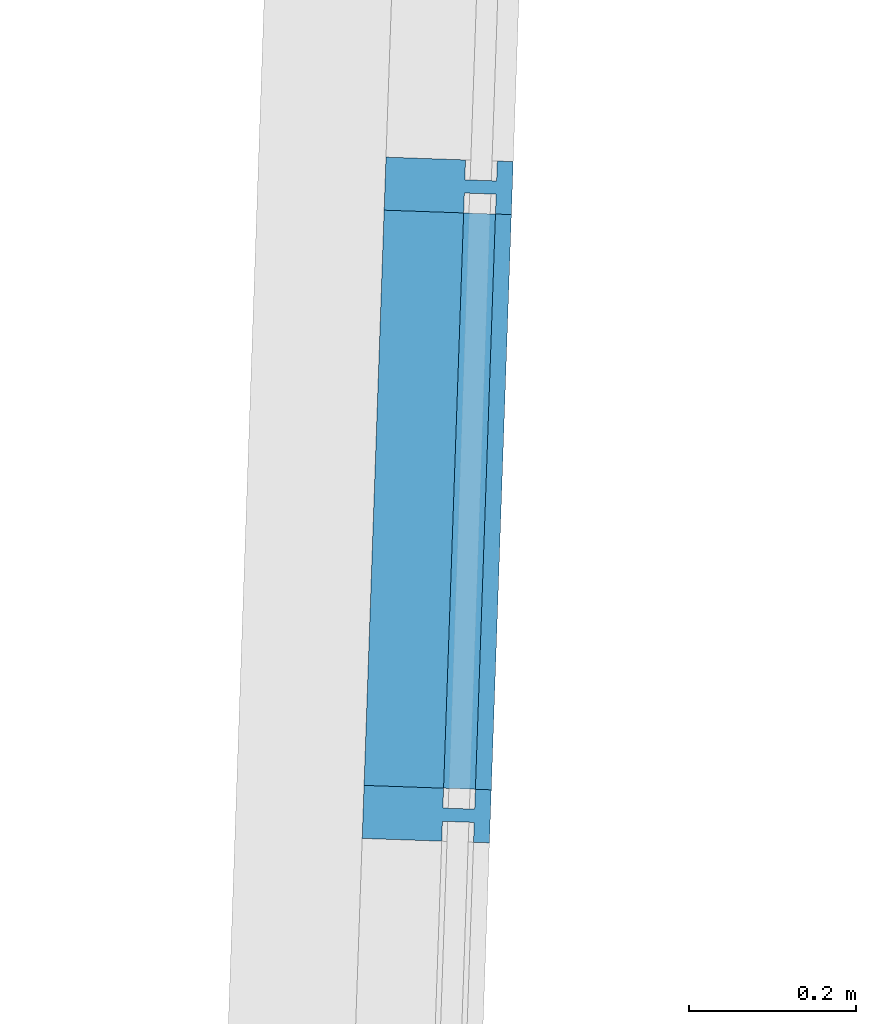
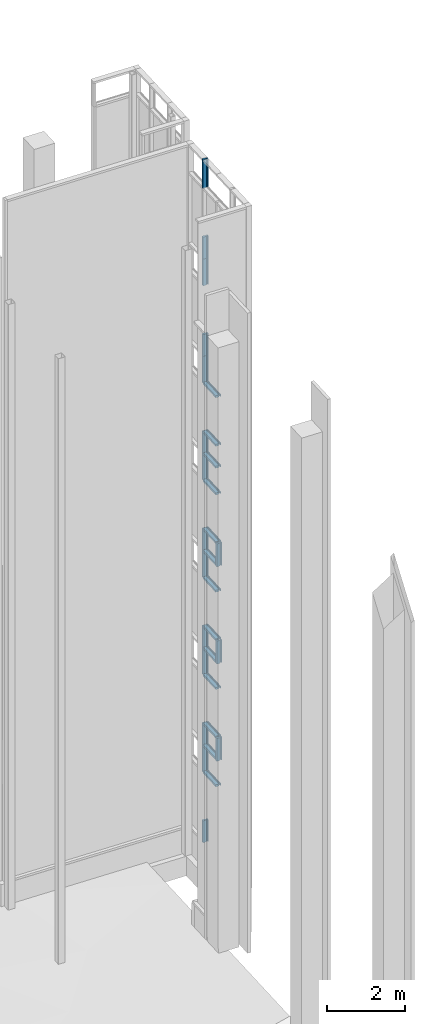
# One storey, part 16 of 44: 30 members, 1 element without a shape of its own.
"""IFC2X3 building model written with IfcOpenShell, lengths in feet."""

from ifc_helpers import new_model, entity, si_unit, converted_unit, derived_unit, direction, frame, origin, place, context, subcontext, project, spatial, polyline, outline, extrude, material, type_object, element, aggregate, save


model = new_model("IFC2X3")

# Units and contexts
model_context = context("Model", 3, precision=0.0001, world=origin(), true_north=direction((0.999390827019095, 0.0348994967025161)))
body_context = subcontext(model_context, "Body", "Model", "MODEL_VIEW")
ifc_project = project(units=[converted_unit("LENGTHUNIT", "FOOT", entity("IfcRatioMeasure", 0.3048), si_unit("LENGTHUNIT", "METRE"), dimensions=[1, 0, 0, 0, 0, 0, 0]), converted_unit("AREAUNIT", "SQUARE FOOT", entity("IfcRatioMeasure", 0.09290304), si_unit("AREAUNIT", "SQUARE_METRE"), dimensions=[2, 0, 0, 0, 0, 0, 0]), converted_unit("VOLUMEUNIT", "CUBIC FOOT", entity("IfcRatioMeasure", 0.028316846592), si_unit("VOLUMEUNIT", "CUBIC_METRE"), dimensions=[3, 0, 0, 0, 0, 0, 0]), converted_unit("PLANEANGLEUNIT", "DEGREE", entity("IfcRatioMeasure", 0.0174532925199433), si_unit("PLANEANGLEUNIT", "RADIAN"), dimensions=[0, 0, 0, 0, 0, 0, 0]), si_unit("MASSUNIT", "GRAM", prefix="KILO"), si_unit("TIMEUNIT", "SECOND"), si_unit("FREQUENCYUNIT", "HERTZ"), si_unit("THERMODYNAMICTEMPERATUREUNIT", "DEGREE_CELSIUS"), derived_unit("THERMALTRANSMITTANCEUNIT", [(si_unit("MASSUNIT", "GRAM", prefix="KILO"), 1), (si_unit("THERMODYNAMICTEMPERATUREUNIT", "KELVIN"), -1), (si_unit("TIMEUNIT", "SECOND"), -3)]), derived_unit("VOLUMETRICFLOWRATEUNIT", [(si_unit("LENGTHUNIT", "METRE"), 3), (si_unit("TIMEUNIT", "SECOND"), -1)]), si_unit("ELECTRICCURRENTUNIT", "AMPERE"), si_unit("ELECTRICVOLTAGEUNIT", "VOLT"), si_unit("POWERUNIT", "WATT"), si_unit("FORCEUNIT", "NEWTON"), si_unit("ILLUMINANCEUNIT", "LUX"), si_unit("LUMINOUSFLUXUNIT", "LUMEN"), si_unit("LUMINOUSINTENSITYUNIT", "CANDELA"), derived_unit("USERDEFINED", [(si_unit("MASSUNIT", "GRAM", prefix="KILO"), -1), (si_unit("LENGTHUNIT", "METRE"), -2), (si_unit("TIMEUNIT", "SECOND"), 3), (si_unit("LUMINOUSFLUXUNIT", "LUMEN"), 1)]), derived_unit("LINEARVELOCITYUNIT", [(si_unit("LENGTHUNIT", "METRE"), 1), (si_unit("TIMEUNIT", "SECOND"), -1)]), si_unit("PRESSUREUNIT", "PASCAL"), derived_unit("USERDEFINED", [(si_unit("LENGTHUNIT", "METRE"), -2), (si_unit("MASSUNIT", "GRAM", prefix="KILO"), 1), (si_unit("TIMEUNIT", "SECOND"), -2)])], contexts=[model_context])

# Site, building, storey
site_placement = place(None, frame((892.518771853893, 322.38689265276, 0.00393700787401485), z_axis=(0.0, 0.0, 1.0), x_axis=(0.0348994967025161, 0.999390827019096, 0.0)))
site = spatial("IfcSite", under=ifc_project, at=site_placement, Name="Default", CompositionType="ELEMENT")
building_placement = place(site_placement, origin())
building = spatial("IfcBuilding", under=site, at=building_placement, CompositionType="ELEMENT")
storey_placement = place(building_placement, frame((0.0, 0.0, 544.75)))
storey = spatial("IfcBuildingStorey", under=building, at=storey_placement, Name="Exist Garage - Ground Level", CompositionType="ELEMENT", Elevation=544.75)

# Curtain wall, members
curtain_wall_type = type_object("IfcCurtainWallType", Name="Curtain Wall:(Existing) Curtainwall - Blank", PredefinedType="NOTDEFINED")
curtain_wall_placement = place(storey_placement, frame((0.0, 0.0, -544.75)))
curtain_wall = element("IfcCurtainWall", 1, at=curtain_wall_placement, inside=storey, type_object=curtain_wall_type, Name="Curtain Wall:(Existing) Curtainwall - Blank", ObjectType="Curtain Wall:(Existing) Curtainwall - Blank")
ifc_material = material(Name="Metal - Aluminum")
member_1_placement = place(curtain_wall_placement, frame((0.0, 0.0, 544.75)))
member_1 = element("IfcMember", 2, at=member_1_placement, material=ifc_material, Name="Curtain Wall:(Existing) Curtainwall - Blank", ObjectType="Curtain Wall:(Existing) Curtainwall - Blank", context=body_context, shape_type="SweptSolid", body=[
    extrude(outline(polyline([(-0.104166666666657, -0.333333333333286), (0.104166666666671, -0.333333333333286), (0.104166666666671, -0.020833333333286), (0.0260416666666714, -0.020833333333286), (0.0260416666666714, 0.104166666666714), (0.104166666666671, 0.104166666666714), (0.104166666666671, 0.166666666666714), (-0.104166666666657, 0.166666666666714), (-0.104166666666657, 0.104166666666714), (-0.0260416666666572, 0.104166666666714), (-0.0260416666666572, -0.020833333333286), (-0.104166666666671, -0.020833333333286), (-0.104166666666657, -0.333333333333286)])), frame((96.6564634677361, 232.43062014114, 22.1458333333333), z_axis=(0.0, 0.0, 1.0), x_axis=(-1.0, 0.0, 0.0)), (0.0, 0.0, 1.0), 2.35416666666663),
])
member_2_placement = place(curtain_wall_placement, frame((0.0, 0.0, 544.75)))
member_2 = element("IfcMember", 3, at=member_2_placement, material=ifc_material, Name="Curtain Wall:(Existing) Curtainwall - Blank", ObjectType="Curtain Wall:(Existing) Curtainwall - Blank", context=body_context, shape_type="SweptSolid", body=[
    extrude(outline(polyline([(-0.104166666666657, -0.333333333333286), (0.104166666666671, -0.333333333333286), (0.104166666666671, -0.020833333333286), (0.0260416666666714, -0.020833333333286), (0.0260416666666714, 0.104166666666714), (0.104166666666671, 0.104166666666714), (0.104166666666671, 0.166666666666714), (-0.104166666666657, 0.166666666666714), (-0.104166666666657, 0.104166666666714), (-0.0260416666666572, 0.104166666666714), (-0.0260416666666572, -0.020833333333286), (-0.104166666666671, -0.020833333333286), (-0.104166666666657, -0.333333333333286)])), frame((96.6564634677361, 232.43062014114, 12.1458333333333), z_axis=(0.0, 0.0, 1.0), x_axis=(-1.0, 0.0, 0.0)), (0.0, 0.0, 1.0), 2.35416666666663),
])
member_3_placement = place(curtain_wall_placement, frame((0.0, 0.0, 544.75)))
member_3 = element("IfcMember", 4, at=member_3_placement, material=ifc_material, Name="Curtain Wall:(Existing) Curtainwall - Blank", ObjectType="Curtain Wall:(Existing) Curtainwall - Blank", context=body_context, shape_type="SweptSolid", body=[
    extrude(outline(polyline([(-0.104166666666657, -0.333333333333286), (0.104166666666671, -0.333333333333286), (0.104166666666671, -0.020833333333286), (0.0260416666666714, -0.020833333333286), (0.0260416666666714, 0.104166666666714), (0.104166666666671, 0.104166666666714), (0.104166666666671, 0.166666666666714), (-0.104166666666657, 0.166666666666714), (-0.104166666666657, 0.104166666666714), (-0.0260416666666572, 0.104166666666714), (-0.0260416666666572, -0.020833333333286), (-0.104166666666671, -0.020833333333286), (-0.104166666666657, -0.333333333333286)])), frame((96.6564634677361, 232.43062014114, 32.1458333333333), z_axis=(0.0, 0.0, 1.0), x_axis=(-1.0, 0.0, 0.0)), (0.0, 0.0, 1.0), 2.35416666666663),
])
member_4_placement = place(curtain_wall_placement, frame((0.0, 0.0, 544.75)))
member_4 = element("IfcMember", 5, at=member_4_placement, material=ifc_material, Name="Curtain Wall:(Existing) Curtainwall - Blank", ObjectType="Curtain Wall:(Existing) Curtainwall - Blank", context=body_context, shape_type="SweptSolid", body=[
    extrude(outline(polyline([(-0.104166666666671, -0.333333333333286), (0.104166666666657, -0.333333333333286), (0.104166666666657, -0.020833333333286), (0.0260416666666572, -0.020833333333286), (0.0260416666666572, 0.104166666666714), (0.104166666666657, 0.104166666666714), (0.104166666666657, 0.166666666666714), (-0.104166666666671, 0.166666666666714), (-0.104166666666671, 0.104166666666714), (-0.0260416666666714, 0.104166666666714), (-0.0260416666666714, -0.020833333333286), (-0.104166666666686, -0.020833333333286), (-0.104166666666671, -0.333333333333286)])), frame((99.1252134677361, 232.43062014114, 2.25), z_axis=(0.0, 0.0, 1.0), x_axis=(-1.0, 0.0, 0.0)), (0.0, 0.0, 1.0), 2.25),
])
member_5_placement = place(curtain_wall_placement, frame((0.0, 0.0, 544.75)))
member_5 = element("IfcMember", 6, at=member_5_placement, material=ifc_material, Name="Curtain Wall:(Existing) Curtainwall - Blank", ObjectType="Curtain Wall:(Existing) Curtainwall - Blank", context=body_context, shape_type="SweptSolid", body=[
    extrude(outline(polyline([(-0.104166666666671, -0.333333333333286), (0.104166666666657, -0.333333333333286), (0.104166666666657, -0.020833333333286), (0.0260416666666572, -0.020833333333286), (0.0260416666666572, 0.104166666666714), (0.104166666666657, 0.104166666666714), (0.104166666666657, 0.166666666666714), (-0.104166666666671, 0.166666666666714), (-0.104166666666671, 0.104166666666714), (-0.0260416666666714, 0.104166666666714), (-0.0260416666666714, -0.020833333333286), (-0.104166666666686, -0.020833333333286), (-0.104166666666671, -0.333333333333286)])), frame((99.1252134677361, 232.43062014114, 9.5), z_axis=(0.0, 0.0, 1.0), x_axis=(-1.0, 0.0, 0.0)), (0.0, 0.0, 1.0), 2.75),
])
member_6_placement = place(curtain_wall_placement, frame((0.0, 0.0, 544.75)))
member_6 = element("IfcMember", 7, at=member_6_placement, material=ifc_material, Name="Curtain Wall:(Existing) Curtainwall - Blank", ObjectType="Curtain Wall:(Existing) Curtainwall - Blank", context=body_context, shape_type="SweptSolid", body=[
    extrude(outline(polyline([(-0.104166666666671, -0.333333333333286), (0.104166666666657, -0.333333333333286), (0.104166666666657, -0.020833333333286), (0.0260416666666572, -0.020833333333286), (0.0260416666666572, 0.104166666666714), (0.104166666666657, 0.104166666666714), (0.104166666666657, 0.166666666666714), (-0.104166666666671, 0.166666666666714), (-0.104166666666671, 0.104166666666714), (-0.0260416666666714, 0.104166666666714), (-0.0260416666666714, -0.020833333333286), (-0.104166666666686, -0.020833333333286), (-0.104166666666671, -0.333333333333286)])), frame((99.1252134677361, 232.43062014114, 12.25), z_axis=(0.0, 0.0, 1.0), x_axis=(-1.0, 0.0, 0.0)), (0.0, 0.0, 1.0), 2.25),
])
member_7_placement = place(curtain_wall_placement, frame((0.0, 0.0, 544.75)))
member_7 = element("IfcMember", 8, at=member_7_placement, material=ifc_material, Name="Curtain Wall:(Existing) Curtainwall - Blank", ObjectType="Curtain Wall:(Existing) Curtainwall - Blank", context=body_context, shape_type="SweptSolid", body=[
    extrude(outline(polyline([(-0.104166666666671, -0.333333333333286), (0.104166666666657, -0.333333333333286), (0.104166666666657, -0.020833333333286), (0.0260416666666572, -0.020833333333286), (0.0260416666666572, 0.104166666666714), (0.104166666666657, 0.104166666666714), (0.104166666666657, 0.166666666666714), (-0.104166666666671, 0.166666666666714), (-0.104166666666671, 0.104166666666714), (-0.0260416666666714, 0.104166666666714), (-0.0260416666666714, -0.020833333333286), (-0.104166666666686, -0.020833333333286), (-0.104166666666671, -0.333333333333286)])), frame((99.1252134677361, 232.43062014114, 19.5), z_axis=(0.0, 0.0, 1.0), x_axis=(-1.0, 0.0, 0.0)), (0.0, 0.0, 1.0), 2.75),
])
member_8_placement = place(curtain_wall_placement, frame((0.0, 0.0, 544.75)))
member_8 = element("IfcMember", 9, at=member_8_placement, material=ifc_material, Name="Curtain Wall:(Existing) Curtainwall - Blank", ObjectType="Curtain Wall:(Existing) Curtainwall - Blank", context=body_context, shape_type="SweptSolid", body=[
    extrude(outline(polyline([(-0.104166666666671, -0.333333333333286), (0.104166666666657, -0.333333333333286), (0.104166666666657, -0.020833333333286), (0.0260416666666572, -0.020833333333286), (0.0260416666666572, 0.104166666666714), (0.104166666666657, 0.104166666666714), (0.104166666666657, 0.166666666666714), (-0.104166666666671, 0.166666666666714), (-0.104166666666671, 0.104166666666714), (-0.0260416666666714, 0.104166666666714), (-0.0260416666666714, -0.020833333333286), (-0.104166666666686, -0.020833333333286), (-0.104166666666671, -0.333333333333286)])), frame((99.1252134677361, 232.43062014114, 22.25), z_axis=(0.0, 0.0, 1.0), x_axis=(-1.0, 0.0, 0.0)), (0.0, 0.0, 1.0), 2.25),
])
member_9_placement = place(curtain_wall_placement, frame((0.0, 0.0, 544.75)))
member_9 = element("IfcMember", 10, at=member_9_placement, material=ifc_material, Name="Curtain Wall:(Existing) Curtainwall - Blank", ObjectType="Curtain Wall:(Existing) Curtainwall - Blank", context=body_context, shape_type="SweptSolid", body=[
    extrude(outline(polyline([(-0.104166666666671, -0.333333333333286), (0.104166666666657, -0.333333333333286), (0.104166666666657, -0.020833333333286), (0.0260416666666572, -0.020833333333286), (0.0260416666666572, 0.104166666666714), (0.104166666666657, 0.104166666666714), (0.104166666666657, 0.166666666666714), (-0.104166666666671, 0.166666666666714), (-0.104166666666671, 0.104166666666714), (-0.0260416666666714, 0.104166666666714), (-0.0260416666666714, -0.020833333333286), (-0.104166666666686, -0.020833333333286), (-0.104166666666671, -0.333333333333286)])), frame((99.1252134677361, 232.43062014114, 29.5), z_axis=(0.0, 0.0, 1.0), x_axis=(-1.0, 0.0, 0.0)), (0.0, 0.0, 1.0), 2.75),
])
member_10_placement = place(curtain_wall_placement, frame((0.0, 0.0, 544.75)))
member_10 = element("IfcMember", 11, at=member_10_placement, material=ifc_material, Name="Curtain Wall:(Existing) Curtainwall - Blank", ObjectType="Curtain Wall:(Existing) Curtainwall - Blank", context=body_context, shape_type="SweptSolid", body=[
    extrude(outline(polyline([(-0.104166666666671, -0.333333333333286), (0.104166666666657, -0.333333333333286), (0.104166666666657, -0.020833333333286), (0.0260416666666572, -0.020833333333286), (0.0260416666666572, 0.104166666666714), (0.104166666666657, 0.104166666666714), (0.104166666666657, 0.166666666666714), (-0.104166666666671, 0.166666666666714), (-0.104166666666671, 0.104166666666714), (-0.0260416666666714, 0.104166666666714), (-0.0260416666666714, -0.020833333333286), (-0.104166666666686, -0.020833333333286), (-0.104166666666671, -0.333333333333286)])), frame((99.1252134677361, 232.43062014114, 32.25), z_axis=(0.0, 0.0, 1.0), x_axis=(-1.0, 0.0, 0.0)), (0.0, 0.0, 1.0), 2.25),
])
member_11_placement = place(curtain_wall_placement, frame((0.0, 0.0, 544.75)))
member_11 = element("IfcMember", 12, at=member_11_placement, material=ifc_material, Name="Curtain Wall:(Existing) Curtainwall - Blank", ObjectType="Curtain Wall:(Existing) Curtainwall - Blank", context=body_context, shape_type="SweptSolid", body=[
    extrude(outline(polyline([(-0.104166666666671, -0.333333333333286), (0.104166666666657, -0.333333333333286), (0.104166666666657, -0.020833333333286), (0.0260416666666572, -0.020833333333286), (0.0260416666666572, 0.104166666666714), (0.104166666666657, 0.104166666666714), (0.104166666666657, 0.166666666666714), (-0.104166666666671, 0.166666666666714), (-0.104166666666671, 0.104166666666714), (-0.0260416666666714, 0.104166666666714), (-0.0260416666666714, -0.020833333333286), (-0.104166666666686, -0.020833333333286), (-0.104166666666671, -0.333333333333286)])), frame((99.1252134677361, 232.43062014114, 39.5), z_axis=(0.0, 0.0, 1.0), x_axis=(-1.0, 0.0, 0.0)), (0.0, 0.0, 1.0), 2.75),
])
member_12_placement = place(curtain_wall_placement, frame((0.0, 0.0, 544.75)))
member_12 = element("IfcMember", 13, at=member_12_placement, material=ifc_material, Name="Curtain Wall:(Existing) Curtainwall - Blank", ObjectType="Curtain Wall:(Existing) Curtainwall - Blank", context=body_context, shape_type="SweptSolid", body=[
    extrude(outline(polyline([(-0.104166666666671, -0.333333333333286), (0.104166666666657, -0.333333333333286), (0.104166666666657, -0.020833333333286), (0.0260416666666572, -0.020833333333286), (0.0260416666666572, 0.104166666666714), (0.104166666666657, 0.104166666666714), (0.104166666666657, 0.166666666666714), (-0.104166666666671, 0.166666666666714), (-0.104166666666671, 0.104166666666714), (-0.0260416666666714, 0.104166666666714), (-0.0260416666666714, -0.020833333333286), (-0.104166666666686, -0.020833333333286), (-0.104166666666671, -0.333333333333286)])), frame((99.1252134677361, 232.43062014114, 42.25), z_axis=(0.0, 0.0, 1.0), x_axis=(-1.0, 0.0, 0.0)), (0.0, 0.0, 1.0), 2.25),
])
member_13_placement = place(curtain_wall_placement, frame((0.0, 0.0, 544.75)))
member_13 = element("IfcMember", 14, at=member_13_placement, material=ifc_material, Name="Curtain Wall:(Existing) Curtainwall - Blank", ObjectType="Curtain Wall:(Existing) Curtainwall - Blank", context=body_context, shape_type="SweptSolid", body=[
    extrude(outline(polyline([(-0.104166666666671, -0.333333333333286), (0.104166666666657, -0.333333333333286), (0.104166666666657, -0.020833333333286), (0.0260416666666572, -0.020833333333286), (0.0260416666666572, 0.104166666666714), (0.104166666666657, 0.104166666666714), (0.104166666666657, 0.166666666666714), (-0.104166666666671, 0.166666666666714), (-0.104166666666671, 0.104166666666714), (-0.0260416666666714, 0.104166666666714), (-0.0260416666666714, -0.020833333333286), (-0.104166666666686, -0.020833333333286), (-0.104166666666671, -0.333333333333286)])), frame((99.1252134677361, 232.43062014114, 49.5), z_axis=(0.0, 0.0, 1.0), x_axis=(-1.0, 0.0, 0.0)), (0.0, 0.0, 1.0), 2.75),
])
member_14_placement = place(curtain_wall_placement, frame((0.0, 0.0, 544.75)))
member_14 = element("IfcMember", 15, at=member_14_placement, material=ifc_material, Name="Curtain Wall:(Existing) Curtainwall - Blank", ObjectType="Curtain Wall:(Existing) Curtainwall - Blank", context=body_context, shape_type="SweptSolid", body=[
    extrude(outline(polyline([(-0.104166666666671, -0.333333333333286), (0.104166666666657, -0.333333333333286), (0.104166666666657, -0.020833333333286), (0.0260416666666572, -0.020833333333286), (0.0260416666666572, 0.104166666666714), (0.104166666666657, 0.104166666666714), (0.104166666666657, 0.166666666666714), (-0.104166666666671, 0.166666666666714), (-0.104166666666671, 0.104166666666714), (-0.0260416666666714, 0.104166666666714), (-0.0260416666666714, -0.020833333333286), (-0.104166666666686, -0.020833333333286), (-0.104166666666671, -0.333333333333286)])), frame((99.1252134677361, 232.43062014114, 52.25), z_axis=(0.0, 0.0, 1.0), x_axis=(-1.0, 0.0, 0.0)), (0.0, 0.0, 1.0), 2.25),
])
member_15_placement = place(curtain_wall_placement, frame((0.0, 0.0, 544.75)))
member_15 = element("IfcMember", 16, at=member_15_placement, material=ifc_material, Name="Curtain Wall:(Existing) Curtainwall - Blank", ObjectType="Curtain Wall:(Existing) Curtainwall - Blank", context=body_context, shape_type="SweptSolid", body=[
    extrude(outline(polyline([(-0.104166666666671, -0.333333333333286), (0.104166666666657, -0.333333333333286), (0.104166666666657, -0.020833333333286), (0.0260416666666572, -0.020833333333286), (0.0260416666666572, 0.104166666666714), (0.104166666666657, 0.104166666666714), (0.104166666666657, 0.166666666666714), (-0.104166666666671, 0.166666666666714), (-0.104166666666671, 0.104166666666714), (-0.0260416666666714, 0.104166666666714), (-0.0260416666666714, -0.020833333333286), (-0.104166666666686, -0.020833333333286), (-0.104166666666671, -0.333333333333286)])), frame((99.1252134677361, 232.43062014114, 59.5), z_axis=(0.0, 0.0, 1.0), x_axis=(-1.0, 0.0, 0.0)), (0.0, 0.0, 1.0), 2.75),
])
member_16_placement = place(curtain_wall_placement, frame((0.0, 0.0, 544.75)))
member_16 = element("IfcMember", 17, at=member_16_placement, material=ifc_material, Name="Curtain Wall:(Existing) Curtainwall - Blank", ObjectType="Curtain Wall:(Existing) Curtainwall - Blank", context=body_context, shape_type="SweptSolid", body=[
    extrude(outline(polyline([(-0.104166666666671, -0.333333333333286), (0.104166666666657, -0.333333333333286), (0.104166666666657, -0.020833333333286), (0.0260416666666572, -0.020833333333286), (0.0260416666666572, 0.104166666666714), (0.104166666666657, 0.104166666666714), (0.104166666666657, 0.166666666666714), (-0.104166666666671, 0.166666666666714), (-0.104166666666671, 0.104166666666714), (-0.0260416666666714, 0.104166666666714), (-0.0260416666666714, -0.020833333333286), (-0.104166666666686, -0.020833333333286), (-0.104166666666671, -0.333333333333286)])), frame((99.1252134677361, 232.43062014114, 69.5), z_axis=(0.0, 0.0, 1.0), x_axis=(-1.0, 0.0, 0.0)), (0.0, 0.0, 1.0), 2.95833333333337),
])
member_17_placement = place(curtain_wall_placement, frame((0.0, 0.0, 544.75)))
member_17 = element("IfcMember", 18, at=member_17_placement, material=ifc_material, Name="Curtain Wall:(Existing) Curtainwall - Blank", ObjectType="Curtain Wall:(Existing) Curtainwall - Blank", context=body_context, shape_type="SweptSolid", body=[
    extrude(outline(polyline([(-0.104166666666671, -0.333333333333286), (0.104166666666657, -0.333333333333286), (0.104166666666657, -0.020833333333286), (0.0260416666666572, -0.020833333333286), (0.0260416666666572, 0.104166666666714), (0.104166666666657, 0.104166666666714), (0.104166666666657, 0.166666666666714), (-0.104166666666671, 0.166666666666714), (-0.104166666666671, 0.104166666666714), (-0.0260416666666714, 0.104166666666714), (-0.0260416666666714, -0.020833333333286), (-0.104166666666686, -0.020833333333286), (-0.104166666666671, -0.333333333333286)])), frame((99.1252134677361, 232.43062014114, 62.25), z_axis=(0.0, 0.0, 1.0), x_axis=(-1.0, 0.0, 0.0)), (0.0, 0.0, 1.0), 2.25),
])
member_18_placement = place(curtain_wall_placement, frame((0.0, 0.0, 544.75)))
member_18 = element("IfcMember", 19, at=member_18_placement, material=ifc_material, Name="Curtain Wall:(Existing) Curtainwall - Blank", ObjectType="Curtain Wall:(Existing) Curtainwall - Blank", context=body_context, shape_type="SweptSolid", body=[
    extrude(outline(polyline([(-0.104166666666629, -0.166666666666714), (0.104166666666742, -0.166666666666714), (0.104166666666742, -0.104166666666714), (0.0260416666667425, -0.104166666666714), (0.0260416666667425, 0.020833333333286), (0.104166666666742, 0.020833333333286), (0.104166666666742, 0.333333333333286), (-0.104166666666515, 0.333333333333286), (-0.104166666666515, 0.020833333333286), (-0.0260416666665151, 0.020833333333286), (-0.0260416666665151, -0.104166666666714), (-0.104166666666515, -0.104166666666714), (-0.104166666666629, -0.166666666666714)])), frame((96.7606301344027, 232.43062014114, 9.50000000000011), z_axis=(1.0, 0.0, 0.0), x_axis=(0.0, 0.0, -1.0)), (0.0, 0.0, 1.0), 2.26041666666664),
])
member_19_placement = place(curtain_wall_placement, frame((0.0, 0.0, 544.75)))
member_19 = element("IfcMember", 20, at=member_19_placement, material=ifc_material, Name="Curtain Wall:(Existing) Curtainwall - Blank", ObjectType="Curtain Wall:(Existing) Curtainwall - Blank", context=body_context, shape_type="SweptSolid", body=[
    extrude(outline(polyline([(-0.104166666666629, -0.166666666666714), (0.104166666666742, -0.166666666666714), (0.104166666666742, -0.104166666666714), (0.0260416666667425, -0.104166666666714), (0.0260416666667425, 0.020833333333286), (0.104166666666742, 0.020833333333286), (0.104166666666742, 0.333333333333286), (-0.104166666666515, 0.333333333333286), (-0.104166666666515, 0.020833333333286), (-0.0260416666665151, 0.020833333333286), (-0.0260416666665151, -0.104166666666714), (-0.104166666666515, -0.104166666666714), (-0.104166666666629, -0.166666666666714)])), frame((96.7606301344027, 232.43062014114, 12.2500000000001), z_axis=(1.0, 0.0, 0.0), x_axis=(0.0, 0.0, -1.0)), (0.0, 0.0, 1.0), 2.26041666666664),
])
member_20_placement = place(curtain_wall_placement, frame((0.0, 0.0, 544.75)))
member_20 = element("IfcMember", 21, at=member_20_placement, material=ifc_material, Name="Curtain Wall:(Existing) Curtainwall - Blank", ObjectType="Curtain Wall:(Existing) Curtainwall - Blank", context=body_context, shape_type="SweptSolid", body=[
    extrude(outline(polyline([(-0.104166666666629, -0.166666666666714), (0.104166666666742, -0.166666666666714), (0.104166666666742, -0.104166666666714), (0.0260416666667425, -0.104166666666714), (0.0260416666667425, 0.020833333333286), (0.104166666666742, 0.020833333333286), (0.104166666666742, 0.333333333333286), (-0.104166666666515, 0.333333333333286), (-0.104166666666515, 0.020833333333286), (-0.0260416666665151, 0.020833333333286), (-0.0260416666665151, -0.104166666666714), (-0.104166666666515, -0.104166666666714), (-0.104166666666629, -0.166666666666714)])), frame((96.7606301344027, 232.43062014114, 14.5000000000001), z_axis=(1.0, 0.0, 0.0), x_axis=(0.0, 0.0, -1.0)), (0.0, 0.0, 1.0), 2.26041666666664),
])
member_21_placement = place(curtain_wall_placement, frame((0.0, 0.0, 544.75)))
member_21 = element("IfcMember", 22, at=member_21_placement, material=ifc_material, Name="Curtain Wall:(Existing) Curtainwall - Blank", ObjectType="Curtain Wall:(Existing) Curtainwall - Blank", context=body_context, shape_type="SweptSolid", body=[
    extrude(outline(polyline([(-0.104166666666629, -0.166666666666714), (0.104166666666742, -0.166666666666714), (0.104166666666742, -0.104166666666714), (0.0260416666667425, -0.104166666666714), (0.0260416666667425, 0.020833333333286), (0.104166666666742, 0.020833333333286), (0.104166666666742, 0.333333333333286), (-0.104166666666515, 0.333333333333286), (-0.104166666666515, 0.020833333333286), (-0.0260416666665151, 0.020833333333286), (-0.0260416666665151, -0.104166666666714), (-0.104166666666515, -0.104166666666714), (-0.104166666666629, -0.166666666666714)])), frame((96.7606301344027, 232.43062014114, 19.5000000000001), z_axis=(1.0, 0.0, 0.0), x_axis=(0.0, 0.0, -1.0)), (0.0, 0.0, 1.0), 2.26041666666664),
])
member_22_placement = place(curtain_wall_placement, frame((0.0, 0.0, 544.75)))
member_22 = element("IfcMember", 23, at=member_22_placement, material=ifc_material, Name="Curtain Wall:(Existing) Curtainwall - Blank", ObjectType="Curtain Wall:(Existing) Curtainwall - Blank", context=body_context, shape_type="SweptSolid", body=[
    extrude(outline(polyline([(-0.104166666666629, -0.166666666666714), (0.104166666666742, -0.166666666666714), (0.104166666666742, -0.104166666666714), (0.0260416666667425, -0.104166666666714), (0.0260416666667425, 0.020833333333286), (0.104166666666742, 0.020833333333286), (0.104166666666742, 0.333333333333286), (-0.104166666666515, 0.333333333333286), (-0.104166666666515, 0.020833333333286), (-0.0260416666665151, 0.020833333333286), (-0.0260416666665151, -0.104166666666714), (-0.104166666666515, -0.104166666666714), (-0.104166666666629, -0.166666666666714)])), frame((96.7606301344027, 232.43062014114, 22.2500000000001), z_axis=(1.0, 0.0, 0.0), x_axis=(0.0, 0.0, -1.0)), (0.0, 0.0, 1.0), 2.26041666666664),
])
member_23_placement = place(curtain_wall_placement, frame((0.0, 0.0, 544.75)))
member_23 = element("IfcMember", 24, at=member_23_placement, material=ifc_material, Name="Curtain Wall:(Existing) Curtainwall - Blank", ObjectType="Curtain Wall:(Existing) Curtainwall - Blank", context=body_context, shape_type="SweptSolid", body=[
    extrude(outline(polyline([(-0.104166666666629, -0.166666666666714), (0.104166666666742, -0.166666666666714), (0.104166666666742, -0.104166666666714), (0.0260416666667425, -0.104166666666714), (0.0260416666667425, 0.020833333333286), (0.104166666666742, 0.020833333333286), (0.104166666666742, 0.333333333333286), (-0.104166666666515, 0.333333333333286), (-0.104166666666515, 0.020833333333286), (-0.0260416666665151, 0.020833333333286), (-0.0260416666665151, -0.104166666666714), (-0.104166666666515, -0.104166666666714), (-0.104166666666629, -0.166666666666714)])), frame((96.7606301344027, 232.43062014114, 24.5000000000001), z_axis=(1.0, 0.0, 0.0), x_axis=(0.0, 0.0, -1.0)), (0.0, 0.0, 1.0), 2.26041666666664),
])
member_24_placement = place(curtain_wall_placement, frame((0.0, 0.0, 544.75)))
member_24 = element("IfcMember", 25, at=member_24_placement, material=ifc_material, Name="Curtain Wall:(Existing) Curtainwall - Blank", ObjectType="Curtain Wall:(Existing) Curtainwall - Blank", context=body_context, shape_type="SweptSolid", body=[
    extrude(outline(polyline([(-0.104166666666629, -0.166666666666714), (0.104166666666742, -0.166666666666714), (0.104166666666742, -0.104166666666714), (0.0260416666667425, -0.104166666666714), (0.0260416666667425, 0.020833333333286), (0.104166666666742, 0.020833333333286), (0.104166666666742, 0.333333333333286), (-0.104166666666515, 0.333333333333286), (-0.104166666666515, 0.020833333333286), (-0.0260416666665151, 0.020833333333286), (-0.0260416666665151, -0.104166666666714), (-0.104166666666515, -0.104166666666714), (-0.104166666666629, -0.166666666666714)])), frame((96.7606301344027, 232.43062014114, 29.5000000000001), z_axis=(1.0, 0.0, 0.0), x_axis=(0.0, 0.0, -1.0)), (0.0, 0.0, 1.0), 2.26041666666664),
])
member_25_placement = place(curtain_wall_placement, frame((0.0, 0.0, 544.75)))
member_25 = element("IfcMember", 26, at=member_25_placement, material=ifc_material, Name="Curtain Wall:(Existing) Curtainwall - Blank", ObjectType="Curtain Wall:(Existing) Curtainwall - Blank", context=body_context, shape_type="SweptSolid", body=[
    extrude(outline(polyline([(-0.104166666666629, -0.166666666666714), (0.104166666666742, -0.166666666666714), (0.104166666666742, -0.104166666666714), (0.0260416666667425, -0.104166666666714), (0.0260416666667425, 0.020833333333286), (0.104166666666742, 0.020833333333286), (0.104166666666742, 0.333333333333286), (-0.104166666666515, 0.333333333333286), (-0.104166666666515, 0.020833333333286), (-0.0260416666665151, 0.020833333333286), (-0.0260416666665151, -0.104166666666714), (-0.104166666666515, -0.104166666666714), (-0.104166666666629, -0.166666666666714)])), frame((96.7606301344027, 232.43062014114, 32.2500000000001), z_axis=(1.0, 0.0, 0.0), x_axis=(0.0, 0.0, -1.0)), (0.0, 0.0, 1.0), 2.26041666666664),
])
member_26_placement = place(curtain_wall_placement, frame((0.0, 0.0, 544.75)))
member_26 = element("IfcMember", 27, at=member_26_placement, material=ifc_material, Name="Curtain Wall:(Existing) Curtainwall - Blank", ObjectType="Curtain Wall:(Existing) Curtainwall - Blank", context=body_context, shape_type="SweptSolid", body=[
    extrude(outline(polyline([(-0.104166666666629, -0.166666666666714), (0.104166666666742, -0.166666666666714), (0.104166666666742, -0.104166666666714), (0.0260416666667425, -0.104166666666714), (0.0260416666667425, 0.020833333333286), (0.104166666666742, 0.020833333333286), (0.104166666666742, 0.333333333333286), (-0.104166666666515, 0.333333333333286), (-0.104166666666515, 0.020833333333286), (-0.0260416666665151, 0.020833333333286), (-0.0260416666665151, -0.104166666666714), (-0.104166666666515, -0.104166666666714), (-0.104166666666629, -0.166666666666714)])), frame((96.7606301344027, 232.43062014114, 34.5000000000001), z_axis=(1.0, 0.0, 0.0), x_axis=(0.0, 0.0, -1.0)), (0.0, 0.0, 1.0), 2.26041666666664),
])
member_27_placement = place(curtain_wall_placement, frame((0.0, 0.0, 544.75)))
member_27 = element("IfcMember", 28, at=member_27_placement, material=ifc_material, Name="Curtain Wall:(Existing) Curtainwall - Blank", ObjectType="Curtain Wall:(Existing) Curtainwall - Blank", context=body_context, shape_type="SweptSolid", body=[
    extrude(outline(polyline([(-0.104166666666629, -0.166666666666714), (0.104166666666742, -0.166666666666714), (0.104166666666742, -0.104166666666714), (0.0260416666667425, -0.104166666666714), (0.0260416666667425, 0.020833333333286), (0.104166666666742, 0.020833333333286), (0.104166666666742, 0.333333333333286), (-0.104166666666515, 0.333333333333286), (-0.104166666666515, 0.020833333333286), (-0.0260416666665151, 0.020833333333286), (-0.0260416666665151, -0.104166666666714), (-0.104166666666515, -0.104166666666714), (-0.104166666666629, -0.166666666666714)])), frame((96.7606301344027, 232.43062014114, 39.5000000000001), z_axis=(1.0, 0.0, 0.0), x_axis=(0.0, 0.0, -1.0)), (0.0, 0.0, 1.0), 2.26041666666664),
])
member_28_placement = place(curtain_wall_placement, frame((0.0, 0.0, 544.75)))
member_28 = element("IfcMember", 29, at=member_28_placement, material=ifc_material, Name="Curtain Wall:(Existing) Curtainwall - Blank", ObjectType="Curtain Wall:(Existing) Curtainwall - Blank", context=body_context, shape_type="SweptSolid", body=[
    extrude(outline(polyline([(-0.104166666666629, -0.166666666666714), (0.104166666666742, -0.166666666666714), (0.104166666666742, -0.104166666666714), (0.0260416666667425, -0.104166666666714), (0.0260416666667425, 0.020833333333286), (0.104166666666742, 0.020833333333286), (0.104166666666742, 0.333333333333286), (-0.104166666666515, 0.333333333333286), (-0.104166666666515, 0.020833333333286), (-0.0260416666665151, 0.020833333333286), (-0.0260416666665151, -0.104166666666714), (-0.104166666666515, -0.104166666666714), (-0.104166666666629, -0.166666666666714)])), frame((96.7606301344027, 232.43062014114, 42.2500000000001), z_axis=(1.0, 0.0, 0.0), x_axis=(0.0, 0.0, -1.0)), (0.0, 0.0, 1.0), 2.26041666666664),
])
member_29_placement = place(curtain_wall_placement, frame((0.0, 0.0, 544.75)))
member_29 = element("IfcMember", 30, at=member_29_placement, material=ifc_material, Name="Curtain Wall:(Existing) Curtainwall - Blank", ObjectType="Curtain Wall:(Existing) Curtainwall - Blank", context=body_context, shape_type="SweptSolid", body=[
    extrude(outline(polyline([(-0.104166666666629, -0.166666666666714), (0.104166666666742, -0.166666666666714), (0.104166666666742, -0.104166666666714), (0.0260416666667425, -0.104166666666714), (0.0260416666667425, 0.020833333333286), (0.104166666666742, 0.020833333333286), (0.104166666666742, 0.333333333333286), (-0.104166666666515, 0.333333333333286), (-0.104166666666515, 0.020833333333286), (-0.0260416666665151, 0.020833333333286), (-0.0260416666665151, -0.104166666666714), (-0.104166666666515, -0.104166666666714), (-0.104166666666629, -0.166666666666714)])), frame((96.7606301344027, 232.43062014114, 44.5000000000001), z_axis=(1.0, 0.0, 0.0), x_axis=(0.0, 0.0, -1.0)), (0.0, 0.0, 1.0), 2.26041666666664),
])
member_30_placement = place(curtain_wall_placement, frame((0.0, 0.0, 544.75)))
member_30 = element("IfcMember", 31, at=member_30_placement, material=ifc_material, Name="Curtain Wall:(Existing) Curtainwall - Blank", ObjectType="Curtain Wall:(Existing) Curtainwall - Blank", context=body_context, shape_type="SweptSolid", body=[
    extrude(outline(polyline([(-0.104166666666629, -0.166666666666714), (0.104166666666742, -0.166666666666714), (0.104166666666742, -0.104166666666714), (0.0260416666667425, -0.104166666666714), (0.0260416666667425, 0.020833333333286), (0.104166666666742, 0.020833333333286), (0.104166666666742, 0.333333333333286), (-0.104166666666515, 0.333333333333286), (-0.104166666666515, 0.020833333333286), (-0.0260416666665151, 0.020833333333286), (-0.0260416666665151, -0.104166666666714), (-0.104166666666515, -0.104166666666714), (-0.104166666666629, -0.166666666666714)])), frame((96.7606301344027, 232.43062014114, 49.5000000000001), z_axis=(1.0, 0.0, 0.0), x_axis=(0.0, 0.0, -1.0)), (0.0, 0.0, 1.0), 2.26041666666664),
])
aggregate(curtain_wall, [member_1, member_2, member_3, member_4, member_5, member_6, member_7, member_8, member_9, member_10, member_11, member_12, member_13, member_14, member_15, member_16, member_17, member_18, member_19, member_20, member_21, member_22, member_23, member_24, member_25, member_26, member_27, member_28, member_29, member_30])

save(model, "model.ifc")
